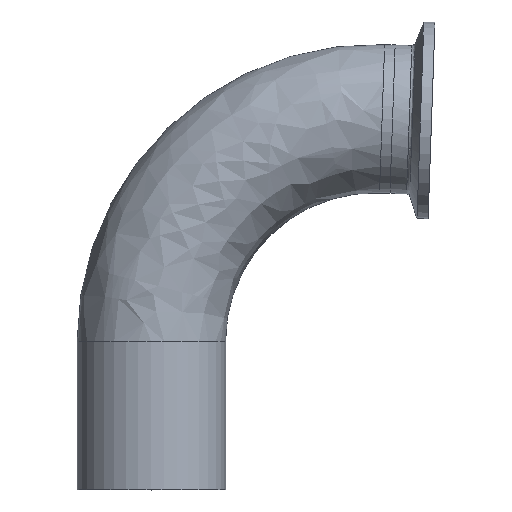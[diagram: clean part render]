
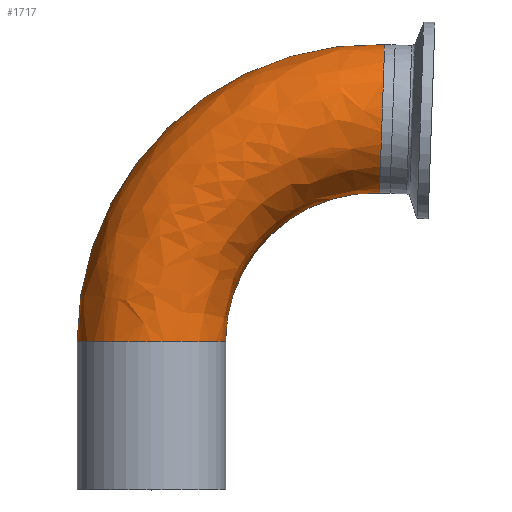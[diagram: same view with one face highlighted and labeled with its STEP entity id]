
A CAD part, top view. The second image highlights one B-rep face of the part: STEP entity #1717.
In plain terms, the highlighted free-form (B-spline) face has degree [3, 3] with [4, 4] control points.
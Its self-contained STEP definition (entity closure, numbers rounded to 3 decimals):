
#11 = CARTESIAN_POINT ( 'NONE',  ( 57.2, 38.018, 0. ) ) ;
#16 = DIRECTION ( 'NONE',  ( 0., 0., -1. ) ) ;
#19 = DIRECTION ( 'NONE',  ( -1., 0., 0. ) ) ;
#24 = EDGE_CURVE ( 'NONE', #929, #798, #710, .T. ) ;
#37 = EDGE_LOOP ( 'NONE', ( #1781, #476, #182, #1124 ) ) ;
#38 = FACE_OUTER_BOUND ( 'NONE', #37, .T. ) ;
#182 = ORIENTED_EDGE ( 'NONE', *, *, #720, .T. ) ;
#254 = DIRECTION ( 'NONE',  ( -1., 0., 0. ) ) ;
#277 = CARTESIAN_POINT ( 'NONE',  ( -19.05, 38.018, 0. ) ) ;
#324 = CIRCLE ( 'NONE', #1723, 76.25 ) ;
#367 = CARTESIAN_POINT ( 'NONE',  ( -19.05, 83.93, 0. ) ) ;
#384 = CARTESIAN_POINT ( 'NONE',  ( 13.977, 115.824, 0. ) ) ;
#391 = CARTESIAN_POINT ( 'NONE',  ( 59.861, 114.221, 0. ) ) ;
#407 = CARTESIAN_POINT ( 'NONE',  ( -19.05, 38.018, 38.1 ) ) ;
#413 = CARTESIAN_POINT ( 'NONE',  ( -19.05, 83.93, 38.1 ) ) ;
#428 = CARTESIAN_POINT ( 'NONE',  ( 13.977, 115.824, 38.1 ) ) ;
#444 = AXIS2_PLACEMENT_3D ( 'NONE', #1156, #1071, #1293 ) ;
#476 = ORIENTED_EDGE ( 'NONE', *, *, #24, .T. ) ;
#518 = CARTESIAN_POINT ( 'NONE',  ( 58.531, 76.145, 38.1 ) ) ;
#543 = CARTESIAN_POINT ( 'NONE',  ( 19.05, 38.018, 0. ) ) ;
#575 = CARTESIAN_POINT ( 'NONE',  ( 19.05, 60.989, 0. ) ) ;
#657 = CARTESIAN_POINT ( 'NONE',  ( 35.574, 76.946, 0. ) ) ;
#665 = CARTESIAN_POINT ( 'NONE',  ( 58.531, 76.145, 0. ) ) ;
#705 = DIRECTION ( 'NONE',  ( 0., 1., 0. ) ) ;
#710 = CIRCLE ( 'NONE', #1303, 38.15 ) ;
#720 = EDGE_CURVE ( 'NONE', #798, #862, #1514, .T. ) ;
#732 = CARTESIAN_POINT ( 'NONE',  ( 0., 38.018, 0. ) ) ;
#764 = CARTESIAN_POINT ( 'NONE',  ( 59.861, 114.221, 0. ) ) ;
#798 = VERTEX_POINT ( 'NONE', #884 ) ;
#826 = CARTESIAN_POINT ( 'NONE',  ( 35.574, 76.946, 38.1 ) ) ;
#862 = VERTEX_POINT ( 'NONE', #764 ) ;
#884 = CARTESIAN_POINT ( 'NONE',  ( 58.531, 76.145, 0. ) ) ;
#929 = VERTEX_POINT ( 'NONE', #1650 ) ;
#1071 = DIRECTION ( 'NONE',  ( -0.999, 0.035, 0. ) ) ;
#1124 = ORIENTED_EDGE ( 'NONE', *, *, #1799, .F. ) ;
#1156 = CARTESIAN_POINT ( 'NONE',  ( 59.196, 95.183, 0. ) ) ;
#1193 = CARTESIAN_POINT ( 'NONE',  ( -19.05, 38.018, 0. ) ) ;
#1272 = CARTESIAN_POINT ( 'NONE',  ( 59.861, 114.221, 38.1 ) ) ;
#1284 = CARTESIAN_POINT ( 'NONE',  ( 19.05, 38.018, 38.1 ) ) ;
#1293 = DIRECTION ( 'NONE',  ( 0.035, 0.999, 0. ) ) ;
#1303 = AXIS2_PLACEMENT_3D ( 'NONE', #11, #16, #19 ) ;
#1338 = AXIS2_PLACEMENT_3D ( 'NONE', #732, #705, #254 ) ;
#1357 = CARTESIAN_POINT ( 'NONE',  ( 19.05, 60.989, 38.1 ) ) ;
#1481 = VERTEX_POINT ( 'NONE', #1193 ) ;
#1493 = CARTESIAN_POINT ( 'NONE',  ( 57.2, 38.018, 0. ) ) ;
#1506 = DIRECTION ( 'NONE',  ( -1., 0., 0. ) ) ;
#1514 = CIRCLE ( 'NONE', #444, 19.05 ) ;
#1518 = DIRECTION ( 'NONE',  ( 0., 0., -1. ) ) ;
#1552 = EDGE_CURVE ( 'NONE', #1481, #929, #1741, .T. ) ;
#1650 = CARTESIAN_POINT ( 'NONE',  ( 19.05, 38.018, 0. ) ) ;
#1717 = ADVANCED_FACE ( 'NONE', ( #38 ), #1739, .T. ) ;
#1723 = AXIS2_PLACEMENT_3D ( 'NONE', #1493, #1518, #1506 ) ;
#1739 =( BOUNDED_SURFACE ( )  B_SPLINE_SURFACE ( 3, 3, ( 
 ( #277, #367, #384, #391 ),
 ( #407, #413, #428, #1272 ),
 ( #1284, #1357, #826, #518 ),
 ( #543, #575, #657, #665 ) ),
 .UNSPECIFIED., .F., .F., .F. ) 
 B_SPLINE_SURFACE_WITH_KNOTS ( ( 4, 4 ),
 ( 4, 4 ),
 ( 0., 1. ),
 ( 0., 1. ),
 .UNSPECIFIED. ) 
 GEOMETRIC_REPRESENTATION_ITEM ( )  RATIONAL_B_SPLINE_SURFACE ( (
 ( 1., 0.796, 0.796, 1.),
 ( 0.333, 0.265, 0.265, 0.333),
 ( 0.333, 0.265, 0.265, 0.333),
 ( 1., 0.796, 0.796, 1.) ) ) 
 REPRESENTATION_ITEM ( '' )  SURFACE ( )  );
#1741 = CIRCLE ( 'NONE', #1338, 19.05 ) ;
#1781 = ORIENTED_EDGE ( 'NONE', *, *, #1552, .T. ) ;
#1799 = EDGE_CURVE ( 'NONE', #1481, #862, #324, .T. ) ;
